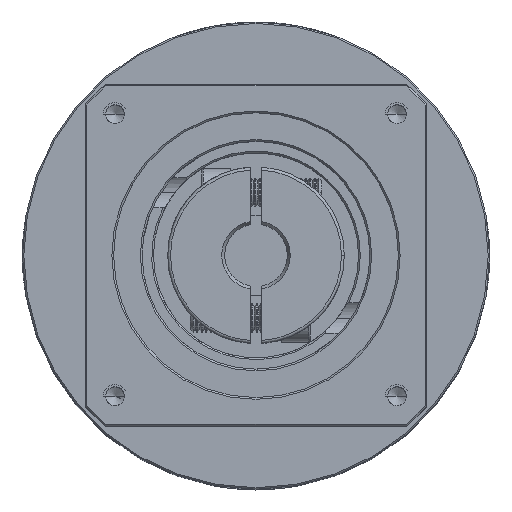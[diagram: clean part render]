
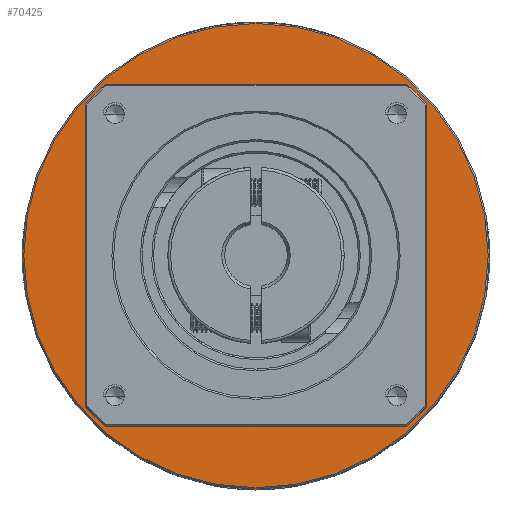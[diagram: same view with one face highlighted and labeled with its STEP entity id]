
A CAD part, top view. The second image highlights one B-rep face of the part: STEP entity #70425.
In plain terms, the highlighted planar face has unit normal (0, 0, 1).
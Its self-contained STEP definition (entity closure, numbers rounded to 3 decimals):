
#880 = EDGE_CURVE ( 'NONE', #75461, #62543, #91205, .T. ) ;
#892 = DIRECTION ( 'NONE',  ( 0., 0., 1. ) ) ;
#1451 = AXIS2_PLACEMENT_3D ( 'NONE', #24809, #89031, #34015 ) ;
#2730 = AXIS2_PLACEMENT_3D ( 'NONE', #15160, #79528, #24466 ) ;
#6720 = EDGE_CURVE ( 'NONE', #69243, #51489, #68644, .T. ) ;
#10493 = ORIENTED_EDGE ( 'NONE', *, *, #6720, .F. ) ;
#14666 = CARTESIAN_POINT ( 'NONE',  ( -105.097, 16.502, -14.546 ) ) ;
#15160 = CARTESIAN_POINT ( 'NONE',  ( -64.347, 16.502, -14.546 ) ) ;
#24014 = EDGE_LOOP ( 'NONE', ( #10493, #80953 ) ) ;
#24466 = DIRECTION ( 'NONE',  ( -1., 0., 0. ) ) ;
#24516 = FACE_BOUND ( 'NONE', #117202, .T. ) ;
#24809 = CARTESIAN_POINT ( 'NONE',  ( -64.347, 16.502, -14.546 ) ) ;
#31360 = ORIENTED_EDGE ( 'NONE', *, *, #880, .T. ) ;
#34015 = DIRECTION ( 'NONE',  ( -1., 0., 0. ) ) ;
#37205 = PLANE ( 'NONE',  #116132 ) ;
#51489 = VERTEX_POINT ( 'NONE', #83560 ) ;
#53538 = CARTESIAN_POINT ( 'NONE',  ( -64.347, 16.502, -14.546 ) ) ;
#55963 = CARTESIAN_POINT ( 'NONE',  ( -64.347, 16.502, -14.546 ) ) ;
#57520 = EDGE_CURVE ( 'NONE', #62543, #75461, #106633, .T. ) ;
#62543 = VERTEX_POINT ( 'NONE', #84633 ) ;
#62872 = DIRECTION ( 'NONE',  ( -1., 0., 0. ) ) ;
#65268 = DIRECTION ( 'NONE',  ( 1., 0., 0. ) ) ;
#68644 = CIRCLE ( 'NONE', #2730, 40.75 ) ;
#69243 = VERTEX_POINT ( 'NONE', #14666 ) ;
#70425 = ADVANCED_FACE ( 'NONE', ( #73420, #24516 ), #37205, .T. ) ;
#73420 = FACE_OUTER_BOUND ( 'NONE', #24014, .T. ) ;
#75461 = VERTEX_POINT ( 'NONE', #87930 ) ;
#79528 = DIRECTION ( 'NONE',  ( 0., 0., -1. ) ) ;
#80953 = ORIENTED_EDGE ( 'NONE', *, *, #92997, .F. ) ;
#83560 = CARTESIAN_POINT ( 'NONE',  ( -23.597, 16.502, -14.546 ) ) ;
#84633 = CARTESIAN_POINT ( 'NONE',  ( -94.347, 16.502, -14.546 ) ) ;
#87930 = CARTESIAN_POINT ( 'NONE',  ( -34.347, 16.502, -14.546 ) ) ;
#89031 = DIRECTION ( 'NONE',  ( 0., 0., -1. ) ) ;
#91205 = CIRCLE ( 'NONE', #115814, 30. ) ;
#92997 = EDGE_CURVE ( 'NONE', #51489, #69243, #111248, .T. ) ;
#97170 = AXIS2_PLACEMENT_3D ( 'NONE', #53538, #117732, #62872 ) ;
#105469 = DIRECTION ( 'NONE',  ( 0., 0., -1. ) ) ;
#105618 = DIRECTION ( 'NONE',  ( -1., 0., 0. ) ) ;
#105758 = CARTESIAN_POINT ( 'NONE',  ( -64.347, 16.502, -14.546 ) ) ;
#106633 = CIRCLE ( 'NONE', #97170, 30. ) ;
#111248 = CIRCLE ( 'NONE', #1451, 40.75 ) ;
#112401 = ORIENTED_EDGE ( 'NONE', *, *, #57520, .T. ) ;
#115814 = AXIS2_PLACEMENT_3D ( 'NONE', #105758, #105469, #105618 ) ;
#116132 = AXIS2_PLACEMENT_3D ( 'NONE', #55963, #892, #65268 ) ;
#117202 = EDGE_LOOP ( 'NONE', ( #112401, #31360 ) ) ;
#117732 = DIRECTION ( 'NONE',  ( 0., 0., -1. ) ) ;
